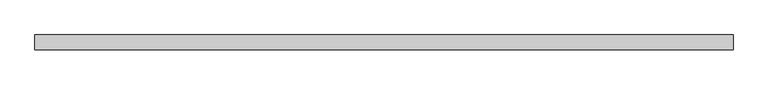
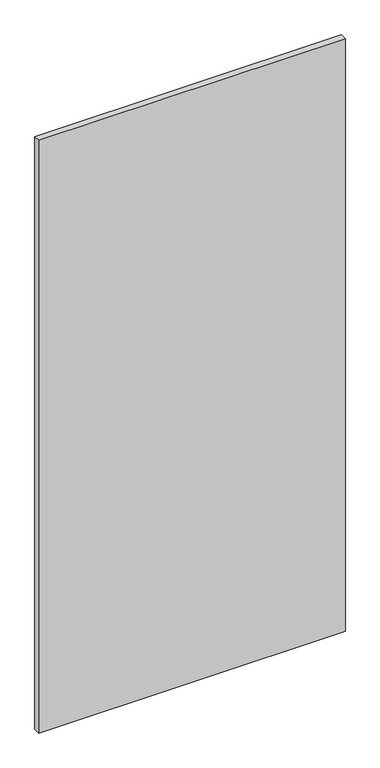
"""IFC4 building model written with IfcOpenShell, lengths in millimetres: plate geometry, システム パネル : ガラス."""

from ifc_helpers import new_model, si_unit, origin, origin_with_axes, place, context, project, spatial, polyline, outline, extrude, source, transform, mapped, element, save


def plate_597a431c(model_context):
    return source(origin(), model_context, "Body", "SweptSolid", [
        extrude(outline(polyline([(587.5000001, -49.5), (-587.5000001, -49.5), (-587.5000001, -24.5), (587.5000001, -24.5), (587.5000001, -49.5)])), origin_with_axes(), (0.0, 0.0, 1.0), 2400.0),
    ])


if __name__ == "__main__":
    model = new_model("IFC4")
    model_context = context("Model", 3, world=origin())
    ifc_project = project(units=[si_unit("LENGTHUNIT", "METRE", prefix="MILLI")], contexts=[model_context])
    site = spatial("IfcSite", under=ifc_project)
    building = spatial("IfcBuilding", under=site)
    placement = place(None, origin())
    plate_shape = plate_597a431c(model_context)
    element("IfcPlate", 1, ObjectType="システム パネル : ガラス", at=placement, inside=building, context=model_context, shape_type="MappedRepresentation", body=[
        mapped(plate_shape, transform((0.0, 0.0, 0.0), x_axis=(1.0, 0.0, 0.0), y_axis=(0.0, 1.0, 0.0), z_axis=(0.0, 0.0, 1.0))),
    ])
    save(model, "model.ifc")
